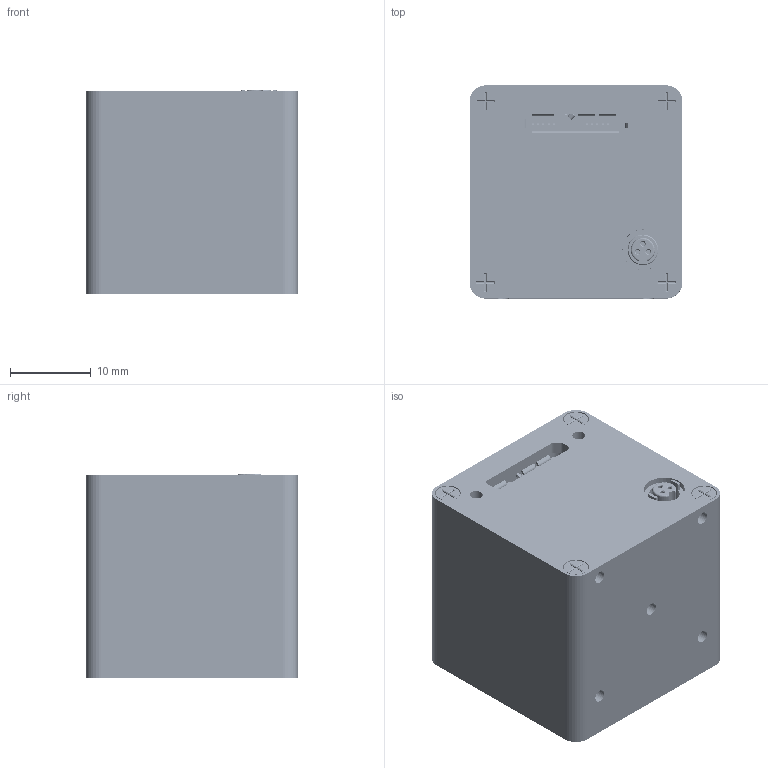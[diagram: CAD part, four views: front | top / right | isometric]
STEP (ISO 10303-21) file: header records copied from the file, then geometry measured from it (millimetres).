
FILE_DESCRIPTION(/* description */ (''),/* implementation_level */ '2;1');
FILE_NAME(/* name */ 'MQ022xG-CM-CS.stp',/* time_stamp */ '2012-12-31T15:14:56+01:00',/* author */ (''),/* organization */ (''),/* preprocessor_version */ 'ST-DEVELOPER v15',/* originating_system */ 'SIEMENS PLM Software NX 8.5',/* authorisation */ '');
FILE_SCHEMA (('AUTOMOTIVE_DESIGN { 1 0 10303 214 3 1 1 1 }'));
Products named in the file (13): CMV2000_Glass; CMV2000_Package; ANDON-96UPGA-Socket; SROB-M2x8-CUST; SROB-M2x10-CUST; FLT-D25; MECH-MQ-MID-022-CM; MECH-MQ-LIGHTPIPE; MECH-MQ-REAR; MECH-MQ-FRONT; CMV2000; MQ022xG-CM-PCA_MODEL; MECH-ASM
Assembly tree (20 placements, depth 4):
  MECH-ASM
    MECH-MQ-FRONT
    MECH-MQ-REAR
    MECH-MQ-LIGHTPIPE  x3
    MECH-MQ-MID-022-CM
    MQ022xG-CM-PCA_MODEL
      CMV2000
        ANDON-96UPGA-Socket
        CMV2000_Package
        CMV2000_Glass
    FLT-D25
    SROB-M2x10-CUST  x4
    SROB-M2x8-CUST  x4
Bounding box: 26.4 x 26.4 x 25.3 mm (x, y, z)
Volume: 9432.2 mm3; surface area: 17296.9 mm2
Topology: 418 solids, 418 shells, 7981 faces, 18785 edges, 11676 vertices
Faces by surface type: plane 5231, cylinder 1602, bspline 493, sphere 334, cone 199, torus 122
Full cylindrical faces by diameter (mm): 0.3 x118, 0.5 x99, 0.512 x3, 0.76 x190, 1 x6, 1.6 x19, 1.9 x8, 2 x12, 3 x8, 3.2 x8, 5.07 x1, 22.8 x2, 24.541 x1, 25 x1, 25.1 x1
Entity records: 250763 total; most frequent: CARTESIAN_POINT 53428, ORIENTED_EDGE 34296, DIRECTION 33922, EDGE_CURVE 17148, LINE 12918, VECTOR 12918, VERTEX_POINT 11269, AXIS2_PLACEMENT_3D 10502
